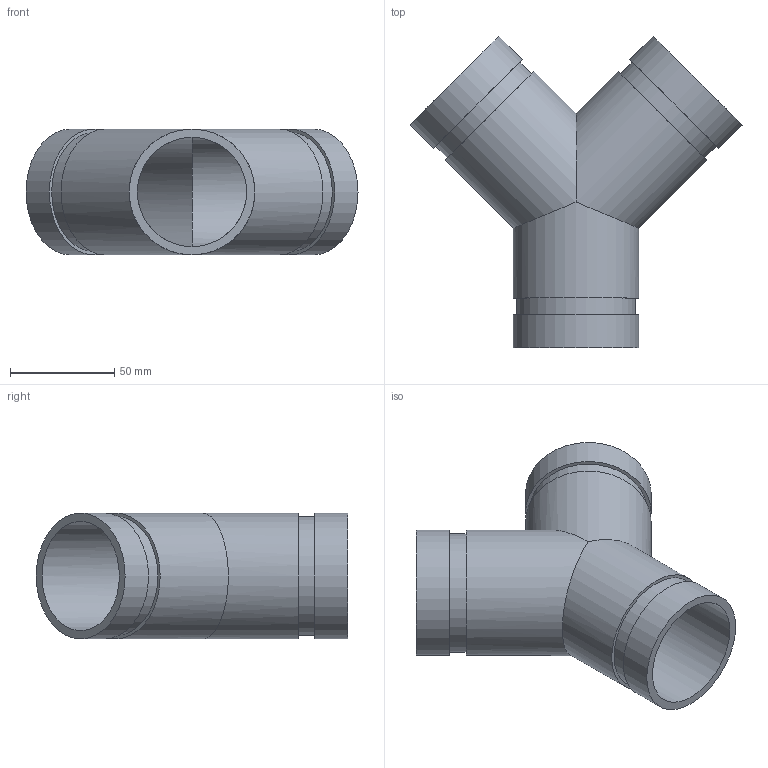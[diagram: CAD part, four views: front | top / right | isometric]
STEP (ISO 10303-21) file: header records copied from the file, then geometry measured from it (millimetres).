
FILE_DESCRIPTION(/* description */ ('This is default description.','CAx-IF Rec.Pracs.---Representation and Presentation of Product Manufacturing Information (PMI)---4.0---2014-10-13'),/* implementation_level */ '2;1');
FILE_NAME(/* name */ 'C:\Users\kkamble\AppData\Roaming\Autodesk\ApplicationPlugins\Back Up\Victaulic_IPS-Tee- Wye_ No 33 SWS (OGS)\Victaulic_IPS-Tee- Wye_ No 33 SWS (OGS)_2.stp',/* time_stamp */ '2020-09-16T22:07:56+06:00',/* author */ ('cgray'),/* organization */ ('Victaulic'),/* preprocessor_version */ 'ST-DEVELOPER v17.2',/* originating_system */ 'Autodesk Inventor 2019',/* authorisation */ '');
FILE_SCHEMA (('AP242_MANAGED_MODEL_BASED_3D_ENGINEERING_MIM_LF { 1 0 10303 442 1 1 4 }'));
Length unit declared in the file: inch
Products named in the file (1): 33 SWS-02.0
Bounding box: 159.4 x 149.55 x 60.33 mm (x, y, z)
Volume: 133093.3 mm3; surface area: 75185.1 mm2
Topology: 1 solids, 1 shells, 21 faces, 48 edges, 34 vertices
Faces by surface type: cylinder 12, plane 9
Full cylindrical faces by diameter (mm): 52.502 x3, 57.15 x3, 60.325 x6
Entity records: 787 total; most frequent: DIRECTION 154, CARTESIAN_POINT 121, ORIENTED_EDGE 96, AXIS2_PLACEMENT_3D 71, EDGE_CURVE 48, VERTEX_POINT 34, EDGE_LOOP 30, CIRCLE 26
